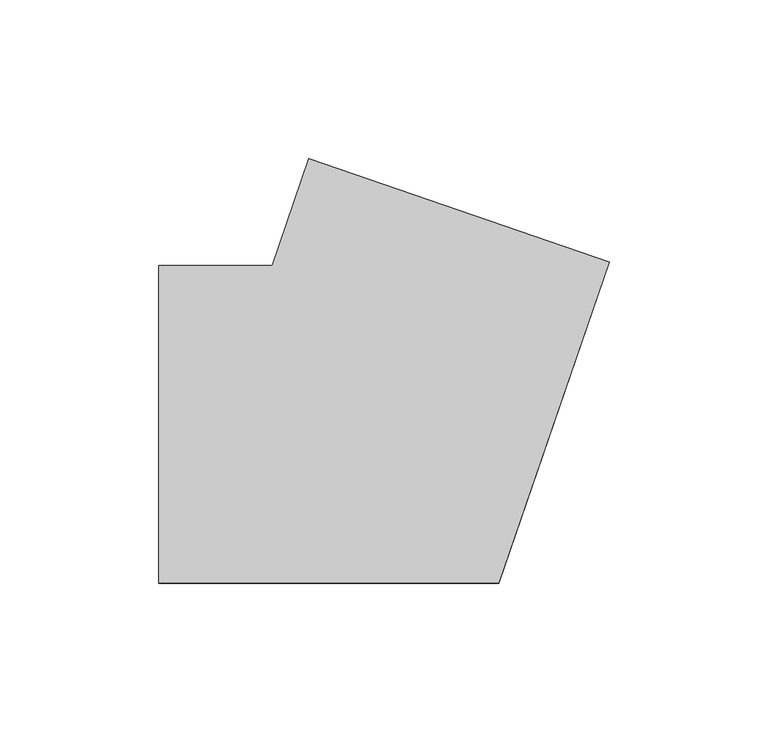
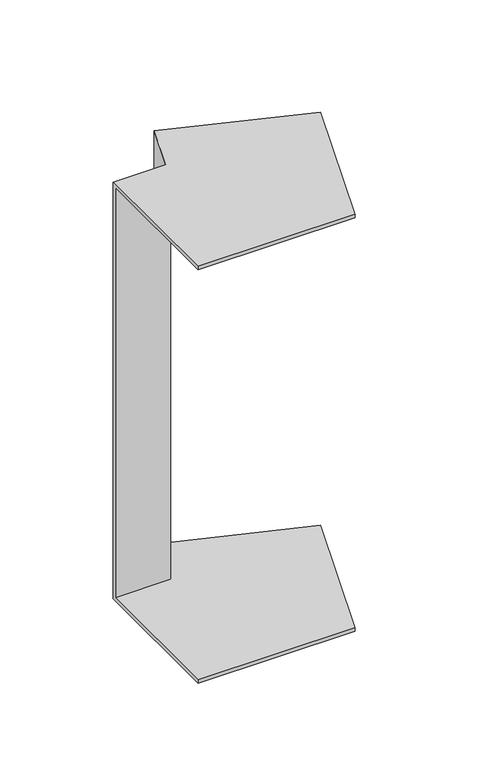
"""IFC4 building model written with IfcOpenShell, lengths in millimetres: cable carrier fitting geometry, ADSK_Поворот вертикальный наружный_Минимальный размер : Неперфорированный."""

from ifc_helpers import new_model, si_unit, origin, place, context, project, spatial, faceted_brep, source, transform, mapped, element, save


def cable_carrier_fitting_858e07ad(model_context):
    return source(origin(), model_context, "Body", "Brep", [
        faceted_brep([(-71.3293068, 50.0, 150.0), (-71.3293068, 50.0, -150.0), (-71.3293068, -50.0, -150.0), (-71.3293068, -50.0, -147.46), (-71.3293068, 47.46, -147.46), (-71.3293068, 47.46, 147.46), (-71.3293068, -50.0, 147.46), (-71.3293068, -50.0, 150.0), (-24.053378, 83.7215923, 150.0), (70.4984796, 51.1647768, 150.0), (70.4984796, 51.1647768, 147.46), (-21.6517608, 82.8946492, 147.46), (-21.6517608, 82.8946492, -147.46), (70.4984796, 51.1647768, -147.46), (70.4984796, 51.1647768, -150.0), (-24.053378, 83.7215923, -150.0), (-35.6646534, 50.0, 150.0), (-35.6646534, 50.0, -150.0), (35.6646534, -50.0, -150.0), (35.6646534, -50.0, -147.46), (-33.852889, 47.46, -147.46), (-33.852889, 47.46, 147.46), (35.6646534, -50.0, 147.46), (35.6646534, -50.0, 150.0)], [[[0, 1, 2, 3, 4, 5, 6, 7]], [[8, 9, 10, 11, 12, 13, 14, 15]], [[1, 0, 16, 17]], [[2, 1, 17, 15, 14, 18]], [[3, 2, 18, 19]], [[4, 3, 19, 13, 12, 20]], [[5, 4, 20, 21]], [[6, 5, 21, 11, 10, 22]], [[7, 6, 22, 23]], [[0, 7, 23, 9, 8, 16]], [[17, 16, 8, 15]], [[19, 18, 14, 13]], [[21, 20, 12, 11]], [[23, 22, 10, 9]]]),
    ])


if __name__ == "__main__":
    model = new_model("IFC4")
    model_context = context("Model", 3, world=origin())
    ifc_project = project(units=[si_unit("LENGTHUNIT", "METRE", prefix="MILLI")], contexts=[model_context])
    site = spatial("IfcSite", under=ifc_project)
    building = spatial("IfcBuilding", under=site)
    placement = place(None, origin())
    cable_carrier_fitting_shape = cable_carrier_fitting_858e07ad(model_context)
    element("IfcCableCarrierFitting", 1, ObjectType="ADSK_Поворот вертикальный наружный_Минимальный размер : Неперфорированный", at=placement, inside=building, context=model_context, shape_type="MappedRepresentation", body=[
        mapped(cable_carrier_fitting_shape, transform((0.0, 0.0, 0.0), x_axis=(1.0, 0.0, 0.0), y_axis=(0.0, 1.0, 0.0), z_axis=(0.0, 0.0, 1.0))),
    ])
    save(model, "model.ifc")
